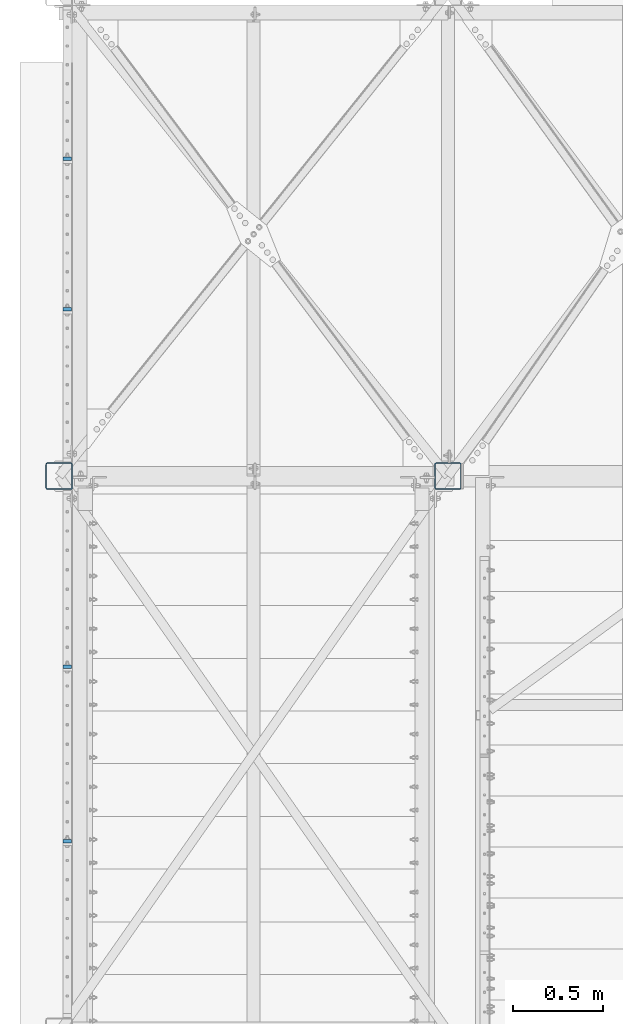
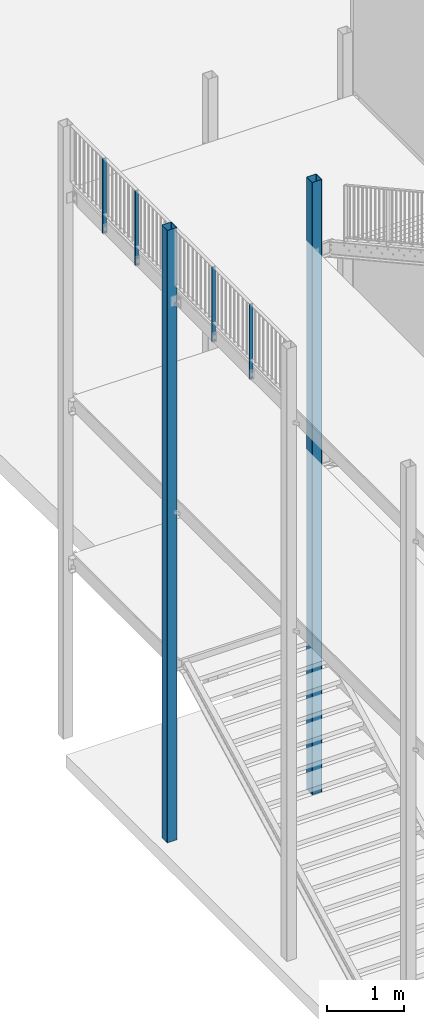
# One storey, part 6 of 78: 6 columns, 4 elements without a shape of their own.
"""IFC2X3 building model written with IfcOpenShell, lengths in millimetres."""

from ifc_helpers import new_model, si_unit, frame, origin_with_axes, origin_2d_with_axis, place, context, subcontext, project, spatial, rectangle, hollow_rectangle, extrude, clip, halfspace, material, type_object, element, aggregate, save


model = new_model("IFC2X3")

# Units and contexts
model_context = context("Model", 3, precision=1e-05, world=origin_with_axes())
body_context = subcontext(model_context, "Body", "Model", "MODEL_VIEW")
ifc_project = project(units=[si_unit("LENGTHUNIT", "METRE", prefix="MILLI"), si_unit("AREAUNIT", "SQUARE_METRE"), si_unit("VOLUMEUNIT", "CUBIC_METRE"), si_unit("MASSUNIT", "GRAM", prefix="KILO"), si_unit("TIMEUNIT", "SECOND"), si_unit("PLANEANGLEUNIT", "RADIAN"), si_unit("SOLIDANGLEUNIT", "STERADIAN"), si_unit("THERMODYNAMICTEMPERATUREUNIT", "DEGREE_CELSIUS"), si_unit("LUMINOUSINTENSITYUNIT", "LUMEN")], contexts=[model_context])

# Site, building, storey
site_placement = place(None, origin_with_axes())
site = spatial("IfcSite", under=ifc_project, at=site_placement, Name="Site", CompositionType="ELEMENT")
building_placement = place(site_placement, origin_with_axes())
building = spatial("IfcBuilding", under=site, at=building_placement, Name="Undefined", CompositionType="ELEMENT")
storey_placement = place(building_placement, origin_with_axes())
storey = spatial("IfcBuildingStorey", under=building, at=storey_placement, Name="Undefined", CompositionType="ELEMENT", Elevation=0.0)

# Assembly, columns
assembly_1_placement = place(storey_placement, origin_with_axes())
assembly_1 = element("IfcElementAssembly", 1, at=assembly_1_placement, inside=storey, Name="MAIN_COURANTE", AssemblyPlace="NOTDEFINED", PredefinedType="RIGID_FRAME")
ifc_material_1 = material(Name="STEEL/S235JR")
column_type_1 = type_object("IfcColumnType", Name="PL20*50", PredefinedType="NOTDEFINED")
column_1_placement = place(assembly_1_placement, frame((-35341.43, 11038.0, 156670.04), z_axis=(0.0, 0.0, 1.0), x_axis=(1.0, 0.0, 0.0)))
column_1 = element("IfcColumn", 2, at=column_1_placement, type_object=column_type_1, material=ifc_material_1, Name="MONTANT", ObjectType="PL20*50", context=body_context, shape_type="Clipping", body=[
    clip(clip(extrude(rectangle(XDim=20.0, YDim=50.0, at=origin_2d_with_axis()), frame((0.0, 0.0, 1030.0), z_axis=(0.0, 0.0, -1.0), x_axis=(0.0, 1.0, 0.0)), (0.0, 0.0, 1.0), 1190.0), halfspace(frame((1.96450855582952e-10, 0.0, 1020.0), z_axis=(0.0, 0.0, 1.0), x_axis=(-1.0, 0.0, 0.0)), False)), halfspace(frame((0.0, -1010.0, -160.0), z_axis=(0.0, 0.0, 1.0), x_axis=(-1.0, 0.0, 0.0)), True)),
])
column_2_placement = place(assembly_1_placement, frame((-35341.43, 11878.0, 156670.04), z_axis=(0.0, 0.0, 1.0), x_axis=(1.0, 0.0, 0.0)))
column_2 = element("IfcColumn", 3, at=column_2_placement, type_object=column_type_1, material=ifc_material_1, Name="MONTANT", ObjectType="PL20*50", context=body_context, shape_type="Clipping", body=[
    clip(clip(extrude(rectangle(XDim=20.0, YDim=50.0, at=origin_2d_with_axis()), frame((0.0, 0.0, 1030.0), z_axis=(0.0, 0.0, -1.0), x_axis=(0.0, 1.0, 0.0)), (0.0, 0.0, 1.0), 1190.0), halfspace(frame((1.96450855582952e-10, 0.0, 1020.0), z_axis=(0.0, 0.0, 1.0), x_axis=(-1.0, 0.0, 0.0)), False)), halfspace(frame((0.0, -1010.0, -160.0), z_axis=(0.0, 0.0, 1.0), x_axis=(-1.0, 0.0, 0.0)), True)),
])
aggregate(assembly_1, [column_1, column_2])

assembly_2_placement = place(storey_placement, origin_with_axes())
assembly_2 = element("IfcElementAssembly", 4, at=assembly_2_placement, inside=storey, Name="MAIN_COURANTE", AssemblyPlace="NOTDEFINED", PredefinedType="RIGID_FRAME")
column_3_placement = place(assembly_2_placement, frame((-35341.43, 8071.33333333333, 156670.04), z_axis=(0.0, 0.0, 1.0), x_axis=(1.0, 0.0, 0.0)))
column_3 = element("IfcColumn", 5, at=column_3_placement, type_object=column_type_1, material=ifc_material_1, Name="MONTANT", ObjectType="PL20*50", context=body_context, shape_type="Clipping", body=[
    clip(clip(extrude(rectangle(XDim=20.0, YDim=50.0, at=origin_2d_with_axis()), frame((0.0, 0.0, 1030.0), z_axis=(0.0, 0.0, -1.0), x_axis=(0.0, 1.0, 0.0)), (0.0, 0.0, 1.0), 1190.0), halfspace(frame((1.96450855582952e-10, 0.0, 1020.0), z_axis=(0.0, 0.0, 1.0), x_axis=(-1.0, 0.0, 0.0)), False)), halfspace(frame((0.0, -1010.0, -160.0), z_axis=(0.0, 0.0, 1.0), x_axis=(-1.0, 0.0, 0.0)), True)),
])
column_4_placement = place(assembly_2_placement, frame((-35341.43, 9044.66666666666, 156670.04), z_axis=(0.0, 0.0, 1.0), x_axis=(1.0, 0.0, 0.0)))
column_4 = element("IfcColumn", 6, at=column_4_placement, type_object=column_type_1, material=ifc_material_1, Name="MONTANT", ObjectType="PL20*50", context=body_context, shape_type="Clipping", body=[
    clip(clip(extrude(rectangle(XDim=20.0, YDim=50.0, at=origin_2d_with_axis()), frame((0.0, 0.0, 1030.0), z_axis=(0.0, 0.0, -1.0), x_axis=(0.0, 1.0, 0.0)), (0.0, 0.0, 1.0), 1190.0), halfspace(frame((1.96450855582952e-10, 0.0, 1020.0), z_axis=(0.0, 0.0, 1.0), x_axis=(-1.0, 0.0, 0.0)), False)), halfspace(frame((0.0, -1010.0, -160.0), z_axis=(0.0, 0.0, 1.0), x_axis=(-1.0, 0.0, 0.0)), True)),
])
aggregate(assembly_2, [column_3, column_4])

# Assembly, column
assembly_3_placement = place(storey_placement, origin_with_axes())
assembly_3 = element("IfcElementAssembly", 7, at=assembly_3_placement, inside=storey, Name="POTEAU", AssemblyPlace="NOTDEFINED", PredefinedType="RIGID_FRAME")
ifc_material_2 = material(Name="STEEL/S275JR")
column_type_2 = type_object("IfcColumnType", Name="TUBE-C-150*150*5", PredefinedType="NOTDEFINED")
column_5_placement = place(assembly_3_placement, frame((-33216.43, 10108.0, 148000.04), z_axis=(0.0, 0.0, 1.0), x_axis=(0.0, 1.0, 0.0)))
column_5 = element("IfcColumn", 8, at=column_5_placement, type_object=column_type_2, material=ifc_material_2, Name="POTEAU", ObjectType="TUBE-C-150*150*5", context=body_context, shape_type="SweptSolid", body=[
    extrude(hollow_rectangle(XDim=150.0, YDim=150.0, WallThickness=5.0, InnerFilletRadius=5.0, OuterFilletRadius=10.0, at=origin_2d_with_axis()), frame((0.0, 0.0, 9699.99999979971), z_axis=(0.0, 0.0, -1.0), x_axis=(0.0, 1.0, 0.0)), (0.0, 0.0, 1.0), 9700.0),
])
aggregate(assembly_3, [column_5])

assembly_4_placement = place(storey_placement, origin_with_axes())
assembly_4 = element("IfcElementAssembly", 9, at=assembly_4_placement, inside=storey, Name="POTEAU", AssemblyPlace="NOTDEFINED", PredefinedType="RIGID_FRAME")
column_6_placement = place(assembly_4_placement, frame((-35386.43, 10108.0, 148000.04), z_axis=(0.0, 0.0, 1.0), x_axis=(0.0, 1.0, 0.0)))
column_6 = element("IfcColumn", 10, at=column_6_placement, type_object=column_type_2, material=ifc_material_2, Name="POTEAU", ObjectType="TUBE-C-150*150*5", context=body_context, shape_type="SweptSolid", body=[
    extrude(hollow_rectangle(XDim=150.0, YDim=150.0, WallThickness=5.0, InnerFilletRadius=5.0, OuterFilletRadius=10.0, at=origin_2d_with_axis()), frame((0.0, 0.0, 9699.99999979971), z_axis=(0.0, 0.0, -1.0), x_axis=(0.0, 1.0, 0.0)), (0.0, 0.0, 1.0), 9700.0),
])
aggregate(assembly_4, [column_6])

save(model, "model.ifc")
